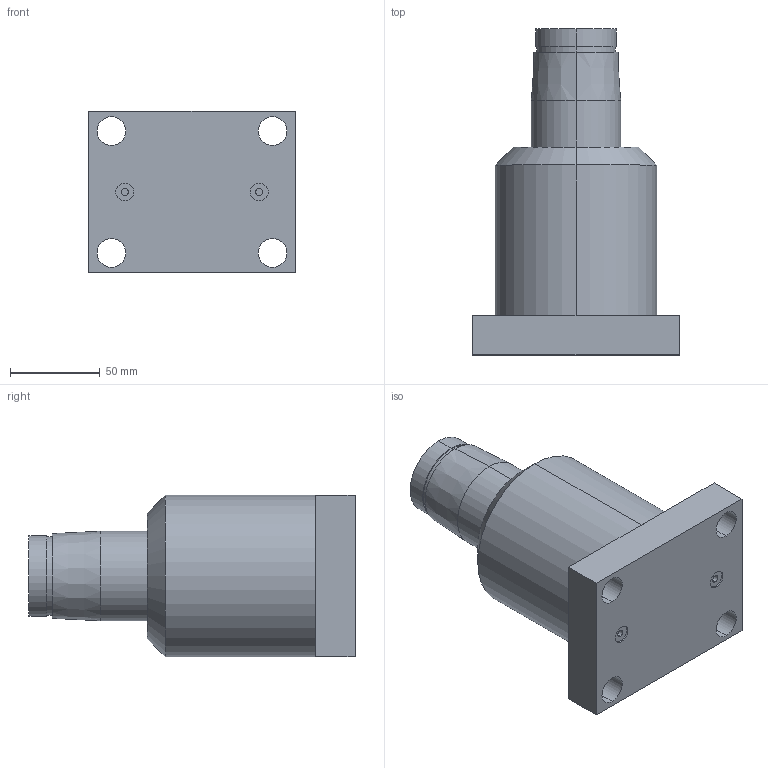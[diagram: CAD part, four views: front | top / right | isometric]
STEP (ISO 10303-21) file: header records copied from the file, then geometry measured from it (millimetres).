
FILE_DESCRIPTION (( 'STEP AP214' ), '1' );
FILE_NAME ('HPS-63DC.STEP', '2021-10-18T08:40:41', ( '' ), ( '' ), 'SwSTEP 2.0', 'SolidWorks 2016', '' );
FILE_SCHEMA (( 'AUTOMOTIVE_DESIGN' ));
Length unit declared in the file: millimetre
Products named in the file (1): HPS-63DC
Bounding box: 115 x 182 x 90 mm (x, y, z)
Volume: 916365.3 mm3; surface area: 67473.7 mm2
Topology: 1 solids, 1 shells, 43 faces, 94 edges, 60 vertices
Faces by surface type: cylinder 24, plane 15, cone 4
Entity records: 1268 total; most frequent: DIRECTION 234, CARTESIAN_POINT 198, ORIENTED_EDGE 188, AXIS2_PLACEMENT_3D 96, EDGE_CURVE 94, VERTEX_POINT 60, EDGE_LOOP 58, CIRCLE 52
